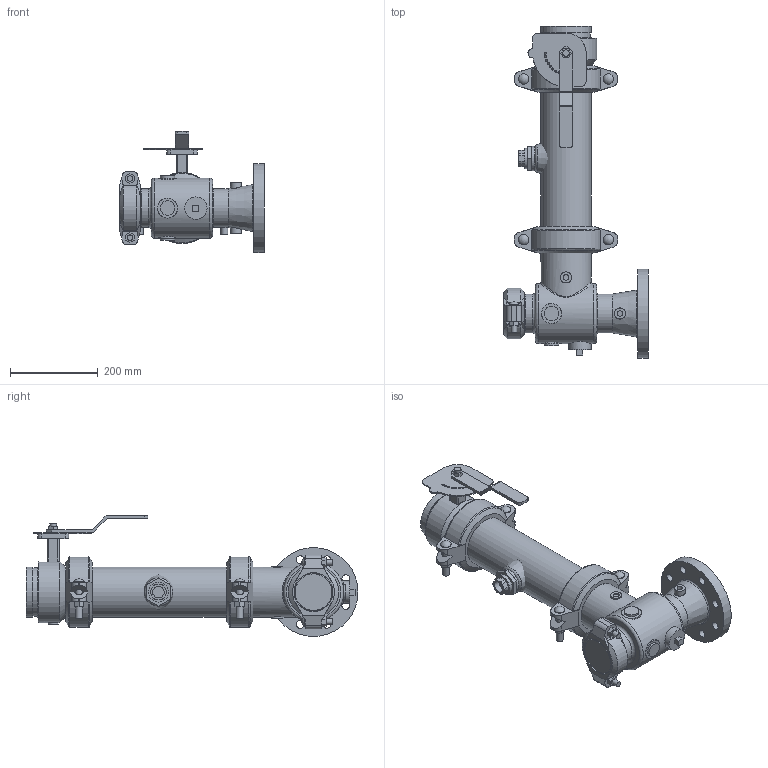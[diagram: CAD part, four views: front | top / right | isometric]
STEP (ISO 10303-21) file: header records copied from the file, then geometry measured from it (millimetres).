
FILE_DESCRIPTION(/* description */ ('VIC SVI PUMP DROP HORZ S/391 (OGSxFLG)','CAx-IF Rec.Pracs.---Representation and Presentation of Product Manufacturing Information (PMI)---4.0---2014-10-13'),/* implementation_level */ '2;1');
FILE_NAME(/* name */ 'C:\Users\kkamble\AppData\Roaming\Autodesk\ApplicationPlugins\Back Up\Victaulic_PN10_Series 391 (OGSxFLG)\Victaulic_PN10_Series 391 (OGSxFLG)_04.0x03.0 (100x80).stp',/* time_stamp */ '2020-11-26T23:43:38+05:00',/* author */ ('kkamble'),/* organization */ ('Victaulic'),/* preprocessor_version */ 'ST-DEVELOPER v17.2',/* originating_system */ 'Autodesk Inventor 2019',/* authorisation */ '');
FILE_SCHEMA (('AP242_MANAGED_MODEL_BASED_3D_ENGINEERING_MIM_LF { 1 0 10303 442 1 1 4 }'));
Length unit declared in the file: inch
Products named in the file (9): 391-04.0x03.0; 731D-04.0x03.0; 731D-04.0x03.0_1; 731D-04.0; 07-03.0; PIPE-04.0; 177N-04.0; 761-04.0; 923-04.0x0.75
Assembly tree (9 placements, depth 3):
  391-04.0x03.0
    731D-04.0x03.0
      731D-04.0x03.0_1
      731D-04.0
      07-03.0
    177N-04.0  x2
    PIPE-04.0
    761-04.0
    923-04.0x0.75
Bounding box: 330.2 x 758.7 x 276.61 mm (x, y, z)
Volume: 5764473.7 mm3; surface area: 1053245.5 mm2
Topology: 8 solids, 11 shells, 531 faces, 1381 edges, 931 vertices
Faces by surface type: plane 297, cylinder 191, cone 19, torus 17, sphere 6, bspline 1
Full cylindrical faces by diameter (mm): 4.826 x10, 8.636 x4, 12.7 x4, 13.157 x4, 14.986 x2, 15.875 x4, 18.009 x8, 22.225 x2, 22.86 x1, 23.495 x4, 25.4 x4, 26.67 x1, 33.02 x3, 45.974 x2, 50.8 x1, 55.118 x1, 55.626 x1, 65.278 x1, 67.056 x1, 72.898 x1, 76.2 x1, 82.55 x1, 84.938 x2, 88.9 x6, 96.52 x1, 101.6 x2, 102.26 x2, 110.084 x5, 114.3 x13, 137.16 x1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
Entity records: 15515 total; most frequent: CARTESIAN_POINT 3419, DIRECTION 2487, ORIENTED_EDGE 2282, EDGE_CURVE 1141, AXIS2_PLACEMENT_3D 948, VERTEX_POINT 772, LINE 591, VECTOR 591
